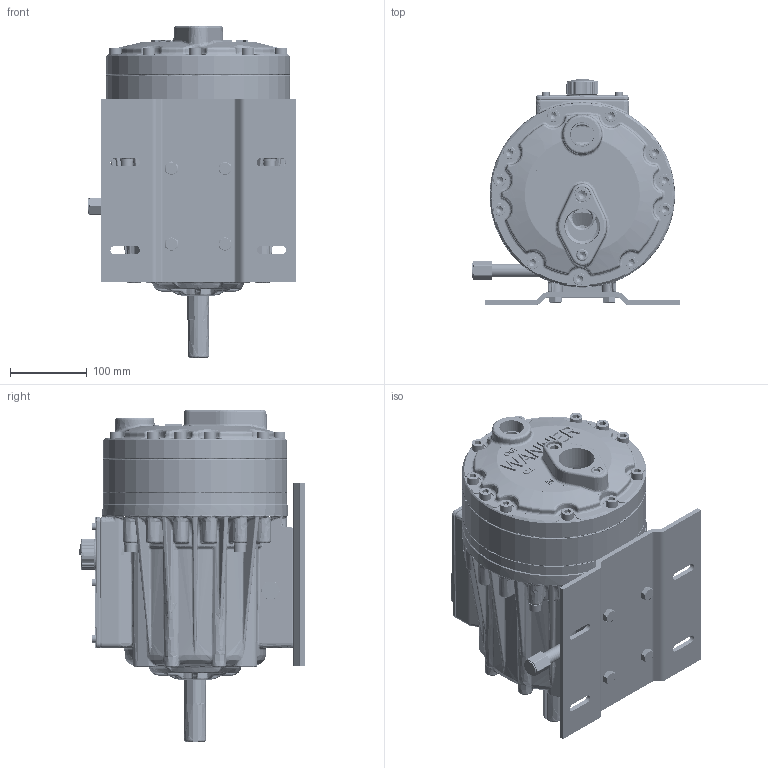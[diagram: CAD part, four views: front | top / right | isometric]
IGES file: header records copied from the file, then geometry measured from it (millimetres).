
Start section: SolidWorks IGES file using analytic representation for surfaces
Global section: file name: Q:\ENG\!!Gary\Outline-Dwgs\Latest-Pump-Adapt-Ki\G25-M-STD.IGS; native system: SolidWorks 2007; preprocessor: SolidWorks 2007; author: garyi; date: 081103.135626; units: inch
Bounding box: 269.87 x 293.87 x 432.05 mm (x, y, z)
Surface area: 1469640.5 mm2 (no closed solid volume)
Topology: 0 solids, 0 shells, 10834 faces, 126002 edges, 125933 vertices
Faces by surface type: revolution 6475, bspline 4359
